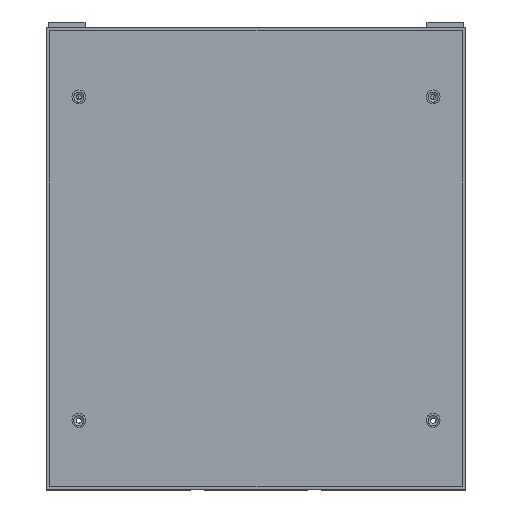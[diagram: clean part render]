
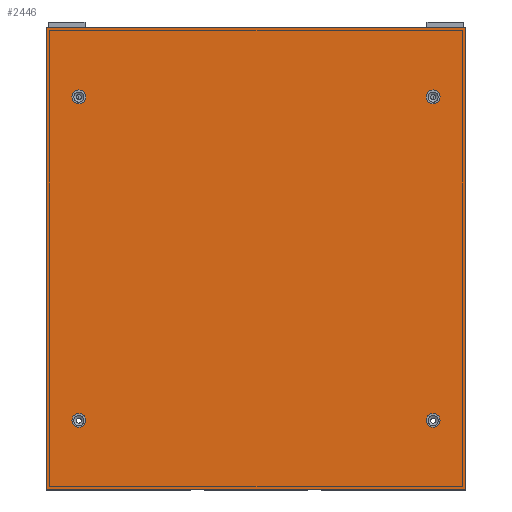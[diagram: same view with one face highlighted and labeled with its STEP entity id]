
A CAD part, top view. The second image highlights one B-rep face of the part: STEP entity #2446.
In plain terms, the highlighted planar face has unit normal (0, 0, 1).
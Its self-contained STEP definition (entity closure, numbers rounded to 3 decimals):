
#673=FACE_BOUND('',#4434,.T.);
#674=FACE_BOUND('',#4435,.T.);
#675=FACE_BOUND('',#4436,.T.);
#676=FACE_BOUND('',#4437,.T.);
#677=FACE_BOUND('',#4438,.T.);
#1626=CIRCLE('',#16135,2.25);
#1627=CIRCLE('',#16136,2.25);
#1628=CIRCLE('',#16137,2.25);
#1629=CIRCLE('',#16138,2.25);
#2446=ADVANCED_FACE('',(#673,#674,#675,#676,#677),#3226,.F.);
#3226=PLANE('',#16139);
#4434=EDGE_LOOP('',(#6499));
#4435=EDGE_LOOP('',(#6500));
#4436=EDGE_LOOP('',(#6501));
#4437=EDGE_LOOP('',(#6502));
#4438=EDGE_LOOP('',(#6503,#6504,#6505,#6506));
#6499=ORIENTED_EDGE('',*,*,#11976,.F.);
#6500=ORIENTED_EDGE('',*,*,#11977,.F.);
#6501=ORIENTED_EDGE('',*,*,#11978,.F.);
#6502=ORIENTED_EDGE('',*,*,#11979,.F.);
#6503=ORIENTED_EDGE('',*,*,#11617,.F.);
#6504=ORIENTED_EDGE('',*,*,#11980,.F.);
#6505=ORIENTED_EDGE('',*,*,#11530,.F.);
#6506=ORIENTED_EDGE('',*,*,#11981,.F.);
#9981=VERTEX_POINT('',#23187);
#9982=VERTEX_POINT('',#23189);
#10042=VERTEX_POINT('',#23354);
#10043=VERTEX_POINT('',#23356);
#10273=VERTEX_POINT('',#24073);
#10274=VERTEX_POINT('',#24075);
#10275=VERTEX_POINT('',#24077);
#10276=VERTEX_POINT('',#24079);
#11530=EDGE_CURVE('',#9981,#9982,#13541,.T.);
#11617=EDGE_CURVE('',#10042,#10043,#13610,.T.);
#11976=EDGE_CURVE('',#10273,#10273,#1626,.T.);
#11977=EDGE_CURVE('',#10274,#10274,#1627,.T.);
#11978=EDGE_CURVE('',#10275,#10275,#1628,.T.);
#11979=EDGE_CURVE('',#10276,#10276,#1629,.T.);
#11980=EDGE_CURVE('',#9982,#10042,#13830,.T.);
#11981=EDGE_CURVE('',#10043,#9981,#13831,.T.);
#13541=LINE('',#23188,#14683);
#13610=LINE('',#23355,#14752);
#13830=LINE('',#24080,#14972);
#13831=LINE('',#24081,#14973);
#14683=VECTOR('',#17894,1.);
#14752=VECTOR('',#18037,1.);
#14972=VECTOR('',#18799,1.);
#14973=VECTOR('',#18800,1.);
#16135=AXIS2_PLACEMENT_3D('',#24072,#18791,#18792);
#16136=AXIS2_PLACEMENT_3D('',#24074,#18793,#18794);
#16137=AXIS2_PLACEMENT_3D('',#24076,#18795,#18796);
#16138=AXIS2_PLACEMENT_3D('',#24078,#18797,#18798);
#16139=AXIS2_PLACEMENT_3D('',#24082,#18801,#18802);
#17894=DIRECTION('',(0.,1.,0.));
#18037=DIRECTION('',(0.,-1.,0.));
#18791=DIRECTION('',(0.,0.,1.));
#18792=DIRECTION('',(-1.,0.,0.));
#18793=DIRECTION('',(0.,0.,1.));
#18794=DIRECTION('',(1.,0.,0.));
#18795=DIRECTION('',(0.,0.,1.));
#18796=DIRECTION('',(-1.,0.,0.));
#18797=DIRECTION('',(0.,0.,1.));
#18798=DIRECTION('',(1.,0.,0.));
#18799=DIRECTION('',(1.,0.,0.));
#18800=DIRECTION('',(-1.,0.,0.));
#18801=DIRECTION('',(0.,0.,-1.));
#18802=DIRECTION('',(1.,0.,0.));
#23187=CARTESIAN_POINT('',(-68.,-78.,193.));
#23188=CARTESIAN_POINT('',(-68.,72.,193.));
#23189=CARTESIAN_POINT('',(-68.,72.,193.));
#23354=CARTESIAN_POINT('',(68.,72.,193.));
#23355=CARTESIAN_POINT('',(68.,72.,193.));
#23356=CARTESIAN_POINT('',(68.,-78.,193.));
#24072=CARTESIAN_POINT('',(-57.5,-55.5,193.));
#24073=CARTESIAN_POINT('',(-59.75,-55.5,193.));
#24074=CARTESIAN_POINT('',(57.5,-55.5,193.));
#24075=CARTESIAN_POINT('',(59.75,-55.5,193.));
#24076=CARTESIAN_POINT('',(57.5,49.5,193.));
#24077=CARTESIAN_POINT('',(55.25,49.5,193.));
#24078=CARTESIAN_POINT('',(-57.5,49.5,193.));
#24079=CARTESIAN_POINT('',(-55.25,49.5,193.));
#24080=CARTESIAN_POINT('',(68.,72.,193.));
#24081=CARTESIAN_POINT('',(68.,-78.,193.));
#24082=CARTESIAN_POINT('',(0.,-3.,193.));
